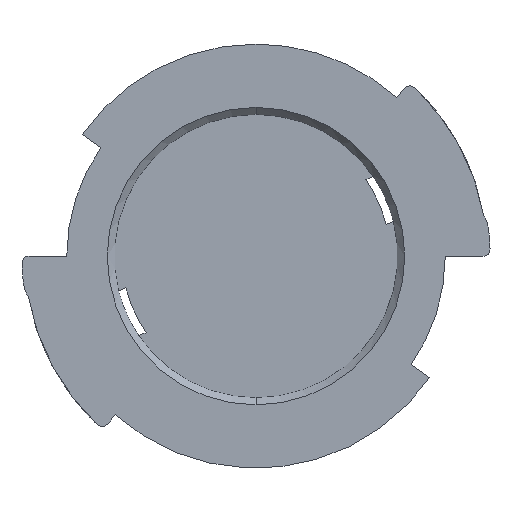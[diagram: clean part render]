
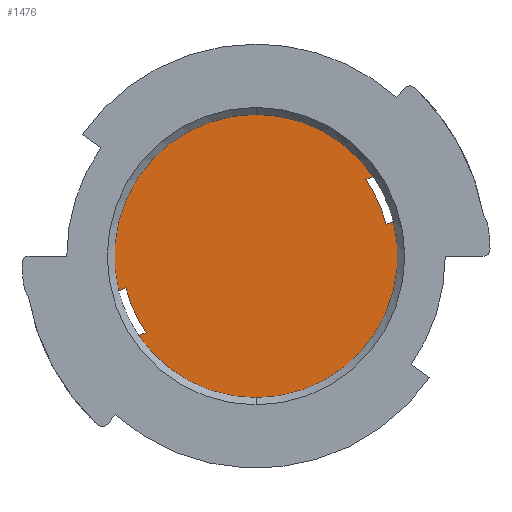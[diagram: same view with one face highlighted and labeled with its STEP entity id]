
A CAD part, front view. The second image highlights one B-rep face of the part: STEP entity #1476.
In plain terms, the highlighted planar face has unit normal (0, -1, 0).
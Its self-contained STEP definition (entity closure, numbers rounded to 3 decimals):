
#48 = DIRECTION ( 'NONE',  ( 0., -1., 0. ) ) ;
#67 = CIRCLE ( 'NONE', #2228, 10.11 ) ;
#76 = DIRECTION ( 'NONE',  ( 0., -1., 0. ) ) ;
#85 = CARTESIAN_POINT ( 'NONE',  ( 7.841, 1., 5.452 ) ) ;
#88 = CARTESIAN_POINT ( 'NONE',  ( 9.798, 1., 2.494 ) ) ;
#115 = VERTEX_POINT ( 'NONE', #1043 ) ;
#116 = EDGE_CURVE ( 'NONE', #1840, #1300, #853, .T. ) ;
#126 = ORIENTED_EDGE ( 'NONE', *, *, #781, .T. ) ;
#147 = AXIS2_PLACEMENT_3D ( 'NONE', #1290, #1649, #1673 ) ;
#212 = CARTESIAN_POINT ( 'NONE',  ( -8.36, 1., -5.685 ) ) ;
#267 = EDGE_CURVE ( 'NONE', #1065, #896, #502, .T. ) ;
#269 = CARTESIAN_POINT ( 'NONE',  ( -7.841, 1., -5.452 ) ) ;
#331 = ORIENTED_EDGE ( 'NONE', *, *, #357, .F. ) ;
#357 = EDGE_CURVE ( 'NONE', #2415, #896, #1698, .T. ) ;
#363 = CARTESIAN_POINT ( 'NONE',  ( 0., 1., 0. ) ) ;
#375 = EDGE_CURVE ( 'NONE', #1210, #1840, #1517, .T. ) ;
#389 = VECTOR ( 'NONE', #1684, 1000. ) ;
#407 = CARTESIAN_POINT ( 'NONE',  ( 0., 1., 0. ) ) ;
#414 = CARTESIAN_POINT ( 'NONE',  ( -9.279, 1., -2.26 ) ) ;
#431 = CIRCLE ( 'NONE', #2434, 10.11 ) ;
#434 = VECTOR ( 'NONE', #1824, 1000. ) ;
#481 = DIRECTION ( 'NONE',  ( 0., -1., 0. ) ) ;
#502 = CIRCLE ( 'NONE', #147, 10.11 ) ;
#535 = VERTEX_POINT ( 'NONE', #269 ) ;
#541 = AXIS2_PLACEMENT_3D ( 'NONE', #2324, #481, #1228 ) ;
#595 = DIRECTION ( 'NONE',  ( 0.912, 0., 0.411 ) ) ;
#618 = CARTESIAN_POINT ( 'NONE',  ( 0., 1., 0. ) ) ;
#634 = EDGE_CURVE ( 'NONE', #1210, #2415, #898, .T. ) ;
#746 = ORIENTED_EDGE ( 'NONE', *, *, #634, .F. ) ;
#764 = CARTESIAN_POINT ( 'NONE',  ( 8.36, 1., 5.685 ) ) ;
#772 = CARTESIAN_POINT ( 'NONE',  ( 0.719, 1., -1.596 ) ) ;
#773 = PLANE ( 'NONE',  #1447 ) ;
#781 = EDGE_CURVE ( 'NONE', #535, #1945, #1734, .T. ) ;
#853 = CIRCLE ( 'NONE', #541, 10.11 ) ;
#896 = VERTEX_POINT ( 'NONE', #88 ) ;
#898 = CIRCLE ( 'NONE', #1802, 9.55 ) ;
#928 = ORIENTED_EDGE ( 'NONE', *, *, #1730, .F. ) ;
#938 = AXIS2_PLACEMENT_3D ( 'NONE', #1492, #1695, #1320 ) ;
#954 = CARTESIAN_POINT ( 'NONE',  ( 0., 1., -10.11 ) ) ;
#970 = CARTESIAN_POINT ( 'NONE',  ( -0.719, 1., 1.596 ) ) ;
#992 = DIRECTION ( 'NONE',  ( 0., 0., 1. ) ) ;
#1043 = CARTESIAN_POINT ( 'NONE',  ( -9.798, 1., -2.494 ) ) ;
#1065 = VERTEX_POINT ( 'NONE', #954 ) ;
#1150 = ORIENTED_EDGE ( 'NONE', *, *, #116, .T. ) ;
#1210 = VERTEX_POINT ( 'NONE', #85 ) ;
#1228 = DIRECTION ( 'NONE',  ( 0., 0., 1. ) ) ;
#1242 = LINE ( 'NONE', #1957, #434 ) ;
#1286 = DIRECTION ( 'NONE',  ( 0., 0., 1. ) ) ;
#1290 = CARTESIAN_POINT ( 'NONE',  ( 0., 1., 0. ) ) ;
#1300 = VERTEX_POINT ( 'NONE', #2248 ) ;
#1308 = ORIENTED_EDGE ( 'NONE', *, *, #2281, .F. ) ;
#1320 = DIRECTION ( 'NONE',  ( 0., 0., 1. ) ) ;
#1339 = FACE_OUTER_BOUND ( 'NONE', #1660, .T. ) ;
#1447 = AXIS2_PLACEMENT_3D ( 'NONE', #407, #1736, #1906 ) ;
#1476 = ADVANCED_FACE ( 'NONE', ( #1339 ), #773, .F. ) ;
#1492 = CARTESIAN_POINT ( 'NONE',  ( 0., 1., 0. ) ) ;
#1516 = VECTOR ( 'NONE', #595, 1000. ) ;
#1517 = LINE ( 'NONE', #970, #1516 ) ;
#1556 = EDGE_CURVE ( 'NONE', #1945, #1065, #431, .T. ) ;
#1607 = DIRECTION ( 'NONE',  ( 0., 0., 1. ) ) ;
#1649 = DIRECTION ( 'NONE',  ( 0., -1., 0. ) ) ;
#1660 = EDGE_LOOP ( 'NONE', ( #1308, #126, #2364, #1788, #331, #746, #2408, #1150, #1665, #928 ) ) ;
#1665 = ORIENTED_EDGE ( 'NONE', *, *, #2036, .T. ) ;
#1671 = DIRECTION ( 'NONE',  ( 0., 1., 0. ) ) ;
#1673 = DIRECTION ( 'NONE',  ( 0., 0., 1. ) ) ;
#1684 = DIRECTION ( 'NONE',  ( -0.912, 0., -0.411 ) ) ;
#1695 = DIRECTION ( 'NONE',  ( 0., 1., 0. ) ) ;
#1698 = LINE ( 'NONE', #772, #2269 ) ;
#1730 = EDGE_CURVE ( 'NONE', #2253, #115, #1242, .T. ) ;
#1734 = LINE ( 'NONE', #2433, #389 ) ;
#1736 = DIRECTION ( 'NONE',  ( 0., 1., 0. ) ) ;
#1788 = ORIENTED_EDGE ( 'NONE', *, *, #267, .T. ) ;
#1802 = AXIS2_PLACEMENT_3D ( 'NONE', #2180, #1671, #1286 ) ;
#1824 = DIRECTION ( 'NONE',  ( -0.912, 0., -0.411 ) ) ;
#1840 = VERTEX_POINT ( 'NONE', #764 ) ;
#1906 = DIRECTION ( 'NONE',  ( 0., 0., 1. ) ) ;
#1945 = VERTEX_POINT ( 'NONE', #212 ) ;
#1957 = CARTESIAN_POINT ( 'NONE',  ( -0.719, 1., 1.596 ) ) ;
#1993 = CIRCLE ( 'NONE', #938, 9.55 ) ;
#2036 = EDGE_CURVE ( 'NONE', #1300, #115, #67, .T. ) ;
#2093 = DIRECTION ( 'NONE',  ( 0.912, 0., 0.411 ) ) ;
#2130 = CARTESIAN_POINT ( 'NONE',  ( 9.279, 1., 2.26 ) ) ;
#2180 = CARTESIAN_POINT ( 'NONE',  ( 0., 1., 0. ) ) ;
#2228 = AXIS2_PLACEMENT_3D ( 'NONE', #618, #48, #1607 ) ;
#2248 = CARTESIAN_POINT ( 'NONE',  ( 0., 1., 10.11 ) ) ;
#2253 = VERTEX_POINT ( 'NONE', #414 ) ;
#2269 = VECTOR ( 'NONE', #2093, 1000. ) ;
#2281 = EDGE_CURVE ( 'NONE', #535, #2253, #1993, .T. ) ;
#2324 = CARTESIAN_POINT ( 'NONE',  ( 0., 1., 0. ) ) ;
#2364 = ORIENTED_EDGE ( 'NONE', *, *, #1556, .T. ) ;
#2408 = ORIENTED_EDGE ( 'NONE', *, *, #375, .T. ) ;
#2415 = VERTEX_POINT ( 'NONE', #2130 ) ;
#2433 = CARTESIAN_POINT ( 'NONE',  ( 0.719, 1., -1.596 ) ) ;
#2434 = AXIS2_PLACEMENT_3D ( 'NONE', #363, #76, #992 ) ;
